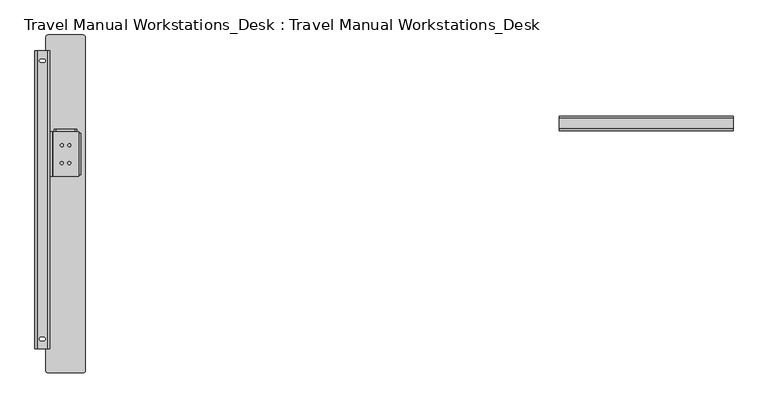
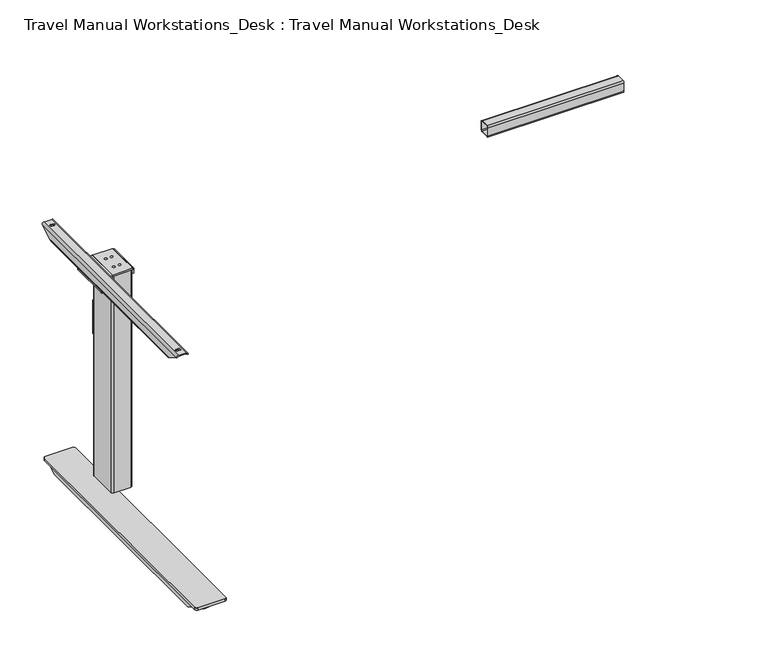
"""IFC4 building model written with IfcOpenShell, lengths in millimetres: furniture geometry, Travel Manual Workstations_Desk : Travel Manual Workstations_Desk."""

from ifc_helpers import new_model, si_unit, point, frame, frame_2d, origin, place, context, project, spatial, polyline, circle_curve, ellipse_curve, trimmed, segment, composite_curve, outline, extrude, source, transform, mapped, element, save
from ifc_brep_helpers import plane_surface, cylinder_surface, revolved_surface, advanced_brep


def travel_manual_workstations_desk_travel_manual_workstations_938992ed(model_context):
    return source(origin(), model_context, "Body", "SolidModel", [
        advanced_brep(
        [(330.0000208, 186.7499019, 681.0036533), (330.0000208, 186.7499019, 659.0036676), (330.0000208, 182.7499019, 655.0036676), (330.0000208, 160.7499162, 655.0036676), (330.0000208, 156.7499162, 659.0036676), (330.0000208, 156.7499162, 681.0036533), (330.0000208, 160.7499162, 685.0036533), (330.0000208, 182.7499019, 685.0036533), (330.0000208, 184.7498786, 659.0036182), (330.0000208, 184.7498786, 681.00363), (330.0000208, 182.7498786, 683.00363), (330.0000208, 160.7570757, 683.00363), (330.0000208, 158.7498668, 680.9964211), (330.0000208, 158.7498668, 659.0036182), (330.0000208, 160.7498668, 657.0036182), (330.0000208, 182.7498786, 657.0036182), (680.0000208, 186.7499019, 659.0036676), (680.0000208, 186.7499019, 681.0036533), (680.0000208, 182.7499019, 685.0036533), (680.0000208, 160.7499162, 685.0036533), (680.0000208, 156.7499162, 681.0036533), (680.0000208, 156.7499162, 659.0036676), (680.0000208, 160.7499162, 655.0036676), (680.0000208, 182.7499019, 655.0036676), (680.0000208, 184.7498786, 681.00363), (680.0000208, 184.7498786, 659.0036182), (680.0000208, 182.7498786, 657.0036182), (680.0000208, 160.7498668, 657.0036182), (680.0000208, 158.7498668, 659.0036182), (680.0000208, 158.7498668, 680.9964211), (680.0000208, 160.7570757, 683.00363), (680.0000208, 182.7498786, 683.00363), (654.9832261, 186.7499019, 669.9805584), (664.9832261, 186.7499019, 669.9805584), (604.9832261, 186.7499019, 669.9805584), (614.9832261, 186.7499019, 669.9805584), (554.9832261, 186.7499019, 669.9805584), (564.9832261, 186.7499019, 669.9805584), (416.3887709, 168.249909, 655.0036676), (416.3887709, 175.249909, 655.0036676), (387.5925208, 168.249909, 655.0036676), (387.5925208, 175.249909, 655.0036676), (358.7962708, 168.249909, 655.0036676), (358.7962708, 175.249909, 655.0036676), (664.9832261, 184.7498786, 669.9805584), (654.9832261, 184.7498786, 669.9805584), (614.9832261, 184.7498786, 669.9805584), (604.9832261, 184.7498786, 669.9805584), (564.9832261, 184.7498786, 669.9805584), (554.9832261, 184.7498786, 669.9805584), (416.3887709, 175.249909, 657.0036182), (416.3887709, 168.249909, 657.0036182), (387.5925208, 175.249909, 657.0036182), (387.5925208, 168.249909, 657.0036182), (358.7962708, 175.249909, 657.0036182), (358.7962708, 168.249909, 657.0036182)],
        [
            (0, 1),
            (1, 2, circle_curve(frame((330.0000208, 182.7499019, 659.0036676), z_axis=(-1.0, 0.0, 0.0), x_axis=(0.0, -1.0, 0.0)), 4.0)),
            (2, 3),
            (3, 4, circle_curve(frame((330.0000208, 160.7499162, 659.0036676), z_axis=(-1.0, 0.0, 0.0), x_axis=(0.0, -1.0, 0.0)), 4.0)),
            (4, 5),
            (5, 6, circle_curve(frame((330.0000208, 160.7499162, 681.0036533), z_axis=(-1.0, 0.0, 0.0), x_axis=(0.0, -1.0, 0.0)), 4.0)),
            (6, 7),
            (7, 0, circle_curve(frame((330.0000208, 182.7499019, 681.0036533), z_axis=(-1.0, 0.0, 0.0), x_axis=(0.0, -1.0, 0.0)), 4.0)),
            (8, 9),
            (9, 10, circle_curve(frame((330.0000208, 182.7498786, 681.00363), z_axis=(1.0, 0.0, 0.0), x_axis=(0.0, -1.0, 0.0)), 2.0)),
            (10, 11),
            (11, 12, circle_curve(frame((330.0000208, 160.7570757, 680.9964211), z_axis=(1.0, 0.0, 0.0), x_axis=(0.0, -1.0, 0.0)), 2.0072089)),
            (12, 13),
            (13, 14, circle_curve(frame((330.0000208, 160.7498668, 659.0036182), z_axis=(1.0, 0.0, 0.0), x_axis=(0.0, -1.0, 0.0)), 2.0)),
            (14, 15),
            (15, 8, circle_curve(frame((330.0000208, 182.7498786, 659.0036182), z_axis=(1.0, 0.0, 0.0), x_axis=(0.0, -1.0, 0.0)), 2.0)),
            (16, 17),
            (17, 18, circle_curve(frame((680.0000208, 182.7499019, 681.0036533), z_axis=(1.0, 0.0, 0.0), x_axis=(0.0, -1.0, 0.0)), 4.0)),
            (18, 19),
            (19, 20, circle_curve(frame((680.0000208, 160.7499162, 681.0036533), z_axis=(1.0, 0.0, 0.0), x_axis=(0.0, -1.0, 0.0)), 4.0)),
            (20, 21),
            (21, 22, circle_curve(frame((680.0000208, 160.7499162, 659.0036676), z_axis=(1.0, 0.0, 0.0), x_axis=(0.0, -1.0, 0.0)), 4.0)),
            (22, 23),
            (23, 16, circle_curve(frame((680.0000208, 182.7499019, 659.0036676), z_axis=(1.0, 0.0, 0.0), x_axis=(0.0, -1.0, 0.0)), 4.0)),
            (24, 25),
            (25, 26, circle_curve(frame((680.0000208, 182.7498786, 659.0036182), z_axis=(-1.0, 0.0, 0.0), x_axis=(0.0, -1.0, 0.0)), 2.0)),
            (26, 27),
            (27, 28, circle_curve(frame((680.0000208, 160.7498668, 659.0036182), z_axis=(-1.0, 0.0, 0.0), x_axis=(0.0, -1.0, 0.0)), 2.0)),
            (28, 29),
            (29, 30, circle_curve(frame((680.0000208, 160.7570757, 680.9964211), z_axis=(-1.0, 0.0, 0.0), x_axis=(0.0, -1.0, 0.0)), 2.0072089)),
            (30, 31),
            (31, 24, circle_curve(frame((680.0000208, 182.7498786, 681.00363), z_axis=(-1.0, 0.0, 0.0), x_axis=(0.0, -1.0, 0.0)), 2.0)),
            (0, 17),
            (16, 1),
            (32, 33, circle_curve(frame((659.9832261, 186.7499019, 669.9805584), z_axis=(0.0, -1.0, 0.0), x_axis=(1.0, 0.0, 0.0)), 5.0)),
            (33, 32, circle_curve(frame((659.9832261, 186.7499019, 669.9805584), z_axis=(0.0, -1.0, 0.0), x_axis=(1.0, 0.0, 0.0)), 5.0)),
            (34, 35, circle_curve(frame((609.9832261, 186.7499019, 669.9805584), z_axis=(0.0, -1.0, 0.0), x_axis=(1.0, 0.0, 0.0)), 5.0)),
            (35, 34, circle_curve(frame((609.9832261, 186.7499019, 669.9805584), z_axis=(0.0, -1.0, 0.0), x_axis=(1.0, 0.0, 0.0)), 5.0)),
            (36, 37, circle_curve(frame((559.9832261, 186.7499019, 669.9805584), z_axis=(0.0, -1.0, 0.0), x_axis=(1.0, 0.0, 0.0)), 5.0)),
            (37, 36, circle_curve(frame((559.9832261, 186.7499019, 669.9805584), z_axis=(0.0, -1.0, 0.0), x_axis=(1.0, 0.0, 0.0)), 5.0)),
            (23, 2),
            (22, 3),
            (38, 39, circle_curve(frame((416.3887709, 171.749909, 655.0036676), z_axis=(0.0, 0.0, 1.0), x_axis=(0.0, -1.0, 0.0)), 3.5)),
            (39, 38, circle_curve(frame((416.3887709, 171.749909, 655.0036676), z_axis=(0.0, 0.0, 1.0), x_axis=(0.0, -1.0, 0.0)), 3.5)),
            (40, 41, circle_curve(frame((387.5925208, 171.749909, 655.0036676), z_axis=(0.0, 0.0, 1.0), x_axis=(0.0, -1.0, 0.0)), 3.5)),
            (41, 40, circle_curve(frame((387.5925208, 171.749909, 655.0036676), z_axis=(0.0, 0.0, 1.0), x_axis=(0.0, -1.0, 0.0)), 3.5)),
            (42, 43, circle_curve(frame((358.7962708, 171.749909, 655.0036676), z_axis=(0.0, 0.0, 1.0), x_axis=(0.0, -1.0, 0.0)), 3.5)),
            (43, 42, circle_curve(frame((358.7962708, 171.749909, 655.0036676), z_axis=(0.0, 0.0, 1.0), x_axis=(0.0, -1.0, 0.0)), 3.5)),
            (21, 4),
            (20, 5),
            (19, 6),
            (18, 7),
            (8, 25),
            (24, 9),
            (44, 45, circle_curve(frame((659.9832261, 184.7498786, 669.9805584), z_axis=(0.0, 1.0, 0.0), x_axis=(1.0, 0.0, 0.0)), 5.0)),
            (45, 44, circle_curve(frame((659.9832261, 184.7498786, 669.9805584), z_axis=(0.0, 1.0, 0.0), x_axis=(1.0, 0.0, 0.0)), 5.0)),
            (46, 47, circle_curve(frame((609.9832261, 184.7498786, 669.9805584), z_axis=(0.0, 1.0, 0.0), x_axis=(1.0, 0.0, 0.0)), 5.0)),
            (47, 46, circle_curve(frame((609.9832261, 184.7498786, 669.9805584), z_axis=(0.0, 1.0, 0.0), x_axis=(1.0, 0.0, 0.0)), 5.0)),
            (48, 49, circle_curve(frame((559.9832261, 184.7498786, 669.9805584), z_axis=(0.0, 1.0, 0.0), x_axis=(1.0, 0.0, 0.0)), 5.0)),
            (49, 48, circle_curve(frame((559.9832261, 184.7498786, 669.9805584), z_axis=(0.0, 1.0, 0.0), x_axis=(1.0, 0.0, 0.0)), 5.0)),
            (31, 10),
            (30, 11),
            (29, 12),
            (28, 13),
            (27, 14),
            (26, 15),
            (50, 51, circle_curve(frame((416.3887709, 171.749909, 657.0036182), z_axis=(0.0, 0.0, -1.0), x_axis=(0.0, -1.0, 0.0)), 3.5)),
            (51, 50, circle_curve(frame((416.3887709, 171.749909, 657.0036182), z_axis=(0.0, 0.0, -1.0), x_axis=(0.0, -1.0, 0.0)), 3.5)),
            (52, 53, circle_curve(frame((387.5925208, 171.749909, 657.0036182), z_axis=(0.0, 0.0, -1.0), x_axis=(0.0, -1.0, 0.0)), 3.5)),
            (53, 52, circle_curve(frame((387.5925208, 171.749909, 657.0036182), z_axis=(0.0, 0.0, -1.0), x_axis=(0.0, -1.0, 0.0)), 3.5)),
            (54, 55, circle_curve(frame((358.7962708, 171.749909, 657.0036182), z_axis=(0.0, 0.0, -1.0), x_axis=(0.0, -1.0, 0.0)), 3.5)),
            (55, 54, circle_curve(frame((358.7962708, 171.749909, 657.0036182), z_axis=(0.0, 0.0, -1.0), x_axis=(0.0, -1.0, 0.0)), 3.5)),
            (50, 39),
            (38, 51),
            (52, 41),
            (40, 53),
            (54, 43),
            (42, 55),
            (32, 45),
            (44, 33),
            (34, 47),
            (46, 35),
            (36, 49),
            (48, 37),
        ],
        [
            plane_surface(frame((330.0000208, 186.7499019, 659.0036414), z_axis=(-1.0, 0.0, 0.0), x_axis=(0.0, 0.0, -1.0))),
            plane_surface(frame((680.0000208, 186.7499019, 659.0036414), z_axis=(1.0, 0.0, 0.0), x_axis=(0.0, 0.0, 1.0))),
            plane_surface(frame((330.0000208, 186.7499019, 681.0036533), z_axis=(0.0, 1.0, 0.0), x_axis=(1.0, 0.0, 0.0))),
            cylinder_surface(frame((680.0000208, 182.7499019, 659.0036676), z_axis=(-1.0, 0.0, 0.0), x_axis=(0.0, -1.0, 0.0)), 4.0),
            plane_surface(frame((330.0000208, 182.7499019, 655.0036676), z_axis=(0.0, 0.0, -1.0), x_axis=(1.0, 0.0, 0.0))),
            cylinder_surface(frame((680.0000208, 160.7499162, 659.0036676), z_axis=(-1.0, 0.0, 0.0), x_axis=(0.0, -1.0, 0.0)), 4.0),
            plane_surface(frame((330.0000208, 156.7499162, 659.0036676), z_axis=(0.0, -1.0, 0.0), x_axis=(1.0, 0.0, 0.0))),
            cylinder_surface(frame((680.0000208, 160.7499162, 681.0036533), z_axis=(-1.0, 0.0, 0.0), x_axis=(0.0, -1.0, 0.0)), 4.0),
            plane_surface(frame((330.0000208, 160.7499162, 685.0036533), z_axis=(0.0, 0.0, 1.0), x_axis=(1.0, 0.0, 0.0))),
            cylinder_surface(frame((680.0000208, 182.7499019, 681.0036533), z_axis=(-1.0, 0.0, 0.0), x_axis=(0.0, -1.0, 0.0)), 4.0),
            plane_surface(frame((330.0000208, 184.7498786, 659.0036182), z_axis=(0.0, -1.0, 0.0), x_axis=(1.0, 0.0, 0.0))),
            revolved_surface(polyline([(680.0000208, 180.7498786, 681.00363), (330.0000208, 180.7498786, 681.00363)]), (-0.0001257, 182.7498786, 681.00363), (1.0, 0.0, 0.0)),
            plane_surface(frame((330.0000208, 182.7498786, 683.00363), z_axis=(0.0, 0.0, -1.0), x_axis=(1.0, 0.0, 0.0))),
            revolved_surface(polyline([(680.0000208, 158.7498668, 680.9964211), (330.0000208, 158.7498668, 680.9964211)]), (-0.0001257, 160.7570757, 680.9964211), (1.0, 0.0, 0.0)),
            plane_surface(frame((330.0000208, 158.7498668, 680.9964211), z_axis=(0.0, 1.0, 0.0), x_axis=(1.0, 0.0, 0.0))),
            revolved_surface(polyline([(680.0000208, 158.7498668, 659.0036182), (330.0000208, 158.7498668, 659.0036182)]), (-0.0001257, 160.7498668, 659.0036182), (1.0, 0.0, 0.0)),
            plane_surface(frame((330.0000208, 160.7498668, 657.0036182), z_axis=(0.0, 0.0, 1.0), x_axis=(1.0, 0.0, 0.0))),
            revolved_surface(polyline([(680.0000208, 180.7498786, 659.0036182), (330.0000208, 180.7498786, 659.0036182)]), (-0.0001257, 182.7498786, 659.0036182), (1.0, 0.0, 0.0)),
            revolved_surface(polyline([(416.3887709, 168.249909, 655.0036676), (416.3887709, 168.249909, 657.0036182)]), (416.3887709, 171.749909, 680.0036676), (0.0, 0.0, -1.0)),
            revolved_surface(polyline([(387.5925208, 168.249909, 655.0036676), (387.5925208, 168.249909, 657.0036182)]), (387.5925208, 171.749909, 680.0036676), (0.0, 0.0, -1.0)),
            revolved_surface(polyline([(358.7962708, 168.249909, 655.0036676), (358.7962708, 168.249909, 657.0036182)]), (358.7962708, 171.749909, 680.0036676), (0.0, 0.0, -1.0)),
            revolved_surface(polyline([(664.9832261, 186.7499019, 669.9805584), (664.9832261, 184.7498786, 669.9805584)]), (659.9832261, 161.7499019, 669.9805584), (0.0, 1.0, 0.0)),
            revolved_surface(polyline([(614.9832261, 186.7499019, 669.9805584), (614.9832261, 184.7498786, 669.9805584)]), (609.9832261, 161.7499019, 669.9805584), (0.0, 1.0, 0.0)),
            revolved_surface(polyline([(564.9832261, 186.7499019, 669.9805584), (564.9832261, 184.7498786, 669.9805584)]), (559.9832261, 161.7499019, 669.9805584), (0.0, 1.0, 0.0)),
        ],
        [
            (0, [[1, 2, 3, 4, 5, 6, 7, 8], [9, 10, 11, 12, 13, 14, 15, 16]]),
            (1, [[17, 18, 19, 20, 21, 22, 23, 24], [25, 26, 27, 28, 29, 30, 31, 32]]),
            (2, [[-1, 33, -17, 34], [35, 36], [37, 38], [39, 40]]),
            (3, [[-2, -34, -24, 41]]),
            (4, [[-3, -41, -23, 42], [43, 44], [45, 46], [47, 48]]),
            (5, [[-4, -42, -22, 49]]),
            (6, [[-5, -49, -21, 50]]),
            (7, [[-6, -50, -20, 51]]),
            (8, [[-7, -51, -19, 52]]),
            (9, [[-8, -52, -18, -33]]),
            (10, [[-9, 53, -25, 54], [55, 56], [57, 58], [59, 60]]),
            (11, [[-10, -54, -32, 61]]),
            (12, [[-11, -61, -31, 62]]),
            (13, [[-12, -62, -30, 63]]),
            (14, [[-13, -63, -29, 64]]),
            (15, [[-14, -64, -28, 65]]),
            (16, [[-15, -65, -27, 66], [67, 68], [69, 70], [71, 72]]),
            (17, [[-16, -66, -26, -53]]),
            (18, [[73, -43, 74, -67]]),
            (18, [[-73, -68, -74, -44]]),
            (19, [[75, -45, 76, -69]]),
            (19, [[-75, -70, -76, -46]]),
            (20, [[77, -47, 78, -71]]),
            (20, [[-77, -72, -78, -48]]),
            (21, [[79, -55, 80, -35]]),
            (21, [[-79, -36, -80, -56]]),
            (22, [[81, -57, 82, -37]]),
            (22, [[-81, -38, -82, -58]]),
            (23, [[83, -59, 84, -39]]),
            (23, [[-83, -40, -84, -60]]),
        ],
    ),
        extrude(outline(polyline([(-637.0001081, 65.2500452), (-688.5001012, 65.2500452), (-688.5001012, 154.7501055), (-637.0001081, 154.7501055), (-637.0001081, 65.2500452)]), holes=[composite_curve([segment(trimmed(circle_curve(frame_2d((-670.7999603, 127.9408107)), 3.0), [point((-673.7999603, 127.9408107))], [point((-667.7999603, 127.9408107))], True, "CARTESIAN"), True, "CONTINUOUS"), segment(trimmed(circle_curve(frame_2d((-670.7999603, 127.9408107)), 3.0), [point((-667.7999603, 127.9408107))], [point((-673.7999603, 127.9408107))], True, "CARTESIAN"), True, "CONTINUOUS")], self_intersect=False), composite_curve([segment(trimmed(circle_curve(frame_2d((-655.7999603, 127.9408107)), 3.0), [point((-658.7999603, 127.9408107))], [point((-652.7999603, 127.9408107))], True, "CARTESIAN"), True, "CONTINUOUS"), segment(trimmed(circle_curve(frame_2d((-655.7999603, 127.9408107)), 3.0), [point((-652.7999603, 127.9408107))], [point((-658.7999603, 127.9408107))], True, "CARTESIAN"), True, "CONTINUOUS")], self_intersect=False), composite_curve([segment(trimmed(circle_curve(frame_2d((-670.7999603, 92.05934)), 3.0), [point((-673.7999603, 92.05934))], [point((-667.7999603, 92.05934))], True, "CARTESIAN"), True, "CONTINUOUS"), segment(trimmed(circle_curve(frame_2d((-670.7999603, 92.05934)), 3.0), [point((-667.7999603, 92.05934))], [point((-673.7999603, 92.05934))], True, "CARTESIAN"), True, "CONTINUOUS")], self_intersect=False), composite_curve([segment(trimmed(circle_curve(frame_2d((-655.7999603, 92.05934)), 3.0), [point((-658.7999603, 92.05934))], [point((-652.7999603, 92.05934))], True, "CARTESIAN"), True, "CONTINUOUS"), segment(trimmed(circle_curve(frame_2d((-655.7999603, 92.05934)), 3.0), [point((-652.7999603, 92.05934))], [point((-658.7999603, 92.05934))], True, "CARTESIAN"), True, "CONTINUOUS")], self_intersect=False)]), frame((0.0, 0.0, 688.9999966), z_axis=(0.0, 0.0, 1.0), x_axis=(1.0, 0.0, 0.0)), (0.0, 0.0, 1.0), 3.9999739),
        extrude(outline(composite_curve([segment(trimmed(circle_curve(frame_2d((-702.5000853, 161.7500998)), 5.0), [point((-702.5000853, 166.7500998))], [point((-697.5000853, 161.7500998))], False, "CARTESIAN"), True, "CONTINUOUS"), segment(polyline([(-697.5000853, 161.7500998), (-697.5000853, 58.2500509)]), True, "CONTINUOUS"), segment(trimmed(circle_curve(frame_2d((-702.5000853, 58.2500509)), 5.0), [point((-697.5000853, 58.2500509))], [point((-702.5000853, 53.2500509))], False, "CARTESIAN"), True, "CONTINUOUS"), segment(polyline([(-702.5000853, 53.2500509), (-718.0000913, 53.2500509)]), True, "CONTINUOUS"), segment(trimmed(circle_curve(frame_2d((-718.0000913, 58.2500509)), 5.0), [point((-718.0000913, 53.2500509))], [point((-723.0000913, 58.2500509))], False, "CARTESIAN"), True, "CONTINUOUS"), segment(polyline([(-723.0000913, 58.2500509), (-723.0000913, 161.7500998)]), True, "CONTINUOUS"), segment(trimmed(circle_curve(frame_2d((-718.0000913, 161.7500998)), 5.0), [point((-723.0000913, 161.7500998))], [point((-718.0000913, 166.7500998))], False, "CARTESIAN"), True, "CONTINUOUS"), segment(polyline([(-718.0000913, 166.7500998), (-702.5000853, 166.7500998)]), True, "CONTINUOUS")], self_intersect=False), holes=[composite_curve([segment(polyline([(-714.5001014, 158.5000219), (-714.5001014, 153.5000364)]), True, "CONTINUOUS"), segment(trimmed(circle_curve(frame_2d((-710.0001035, 153.5000364)), 4.4999979), [point((-714.5001014, 153.5000364))], [point((-705.5001057, 153.5000364))], True, "CARTESIAN"), True, "CONTINUOUS"), segment(polyline([(-705.5001057, 153.5000364), (-705.5001057, 158.5000219)]), True, "CONTINUOUS"), segment(trimmed(circle_curve(frame_2d((-710.0001035, 158.5000219)), 4.4999979), [point((-705.5001057, 158.5000219))], [point((-714.5001014, 158.5000219))], True, "CARTESIAN"), True, "CONTINUOUS")], self_intersect=False), composite_curve([segment(trimmed(circle_curve(frame_2d((-710.0001035, 61.5001287)), 4.4999979), [point((-714.5001014, 61.5001287))], [point((-705.5001057, 61.5001287))], True, "CARTESIAN"), True, "CONTINUOUS"), segment(polyline([(-705.5001057, 61.5001287), (-705.5001057, 66.5001143)]), True, "CONTINUOUS"), segment(trimmed(circle_curve(frame_2d((-710.0001035, 66.5001143)), 4.4999979), [point((-705.5001057, 66.5001143))], [point((-714.5001014, 66.5001143))], True, "CARTESIAN"), True, "CONTINUOUS"), segment(polyline([(-714.5001014, 66.5001143), (-714.5001014, 61.5001287)]), True, "CONTINUOUS")], self_intersect=False)]), frame((0.0, 0.0, 660.9999615), z_axis=(0.0, 0.0, 1.0), x_axis=(1.0, 0.0, 0.0)), (0.0, 0.0, 1.0), 4.0000465),
        extrude(outline(composite_curve([segment(polyline([(677.0000023, -632.500092), (688.4999544, -632.500092)]), True, "CONTINUOUS"), segment(trimmed(circle_curve(frame_2d((688.4999544, -637.0001081)), 4.500016), [point((688.4999544, -632.500092))], [point((692.9999704, -637.0001081))], False, "CARTESIAN"), True, "CONTINUOUS"), segment(polyline([(692.9999704, -637.0001081), (692.9999704, -638.0001081), (688.9999704, -638.0001081), (688.9999704, -636.5143651), (677.0000023, -636.5001022), (677.0000023, -632.500092)]), True, "CONTINUOUS")], self_intersect=False)), frame((0.0, 68.2500074, 0.0), z_axis=(0.0, 1.0, 0.0), x_axis=(0.0, 0.0, 1.0)), (0.0, 0.0, 1.0), 83.4999905),
        advanced_brep(
        [(-694.0001172, 65.2500452, 665.000008), (-697.5000853, 65.2500452, 665.000008), (-697.5000853, 65.2500452, 660.9999615), (-694.5000867, 65.2500452, 660.9999615), (-690.000107, 65.2500452, 665.4999775), (-690.000107, 65.2500452, 688.9999966), (-688.5001012, 65.2500452, 688.9999966), (-688.5001012, 65.2500452, 692.9999704), (-689.5001012, 65.2500452, 692.9999704), (-694.0001172, 65.2500452, 688.4999544), (-694.0001172, 154.7501055, 665.000008), (-694.0001172, 154.7501055, 688.4999544), (-689.5001012, 154.7501055, 692.9999704), (-688.5001012, 154.7501055, 692.9999704), (-688.5001012, 154.7501055, 688.9999966), (-690.000107, 154.7501055, 688.9999966), (-690.000107, 154.7501055, 665.4999775), (-694.5000867, 154.7501055, 660.9999978), (-697.5000853, 154.7501055, 660.9999615), (-697.5000853, 154.7501055, 665.000008)],
        [
            (0, 1),
            (1, 2),
            (2, 3),
            (3, 4, circle_curve(frame((-694.5000867, 65.2500452, 665.4999775), z_axis=(0.0, -1.0, 0.0), x_axis=(1.0, 0.0, 0.0)), 4.4999797)),
            (4, 5),
            (5, 6),
            (6, 7),
            (7, 8),
            (8, 9, circle_curve(frame((-689.5001012, 65.2500452, 688.4999544), z_axis=(0.0, -1.0, 0.0), x_axis=(1.0, 0.0, 0.0)), 4.500016)),
            (9, 0),
            (10, 11),
            (11, 12, circle_curve(frame((-689.5001012, 154.7501055, 688.4999544), z_axis=(0.0, 1.0, 0.0), x_axis=(1.0, 0.0, 0.0)), 4.500016)),
            (12, 13),
            (13, 14),
            (14, 15),
            (15, 16),
            (16, 17, circle_curve(frame((-694.5000867, 154.7501055, 665.4999775), z_axis=(0.0, 1.0, 0.0), x_axis=(1.0, 0.0, 0.0)), 4.4999797)),
            (17, 18),
            (18, 19),
            (19, 10),
            (3, 17),
            (16, 4),
            (15, 5),
            (14, 6),
            (7, 13),
            (12, 8),
            (11, 9),
            (10, 0),
            (19, 1),
            (18, 2),
        ],
        [
            plane_surface(frame((-697.5000853, 65.2500452, 665.000008), z_axis=(0.0, -1.0, 0.0), x_axis=(-1.0, 0.0, 0.0))),
            plane_surface(frame((-697.5000853, 154.7501055, 665.000008), z_axis=(0.0, 1.0, 0.0), x_axis=(1.0, 0.0, 0.0))),
            cylinder_surface(frame((-694.5000867, 154.7501055, 665.4999775), z_axis=(0.0, -1.0, 0.0), x_axis=(1.0, 0.0, 0.0)), 4.4999797),
            plane_surface(frame((-690.000107, 65.2500452, 665.4999775), z_axis=(1.0, 0.0, 0.0), x_axis=(0.0, 1.0, 0.0))),
            plane_surface(frame((-690.000107, 65.2500452, 688.9999966), z_axis=(0.0, 0.0, -1.0), x_axis=(0.0, 1.0, 0.0))),
            plane_surface(frame((-688.5001012, 65.2500452, 692.9999704), z_axis=(0.0, 0.0, 1.0), x_axis=(0.0, 1.0, 0.0))),
            cylinder_surface(frame((-689.5001012, 154.7501055, 688.4999544), z_axis=(0.0, -1.0, 0.0), x_axis=(1.0, 0.0, 0.0)), 4.500016),
            plane_surface(frame((-694.0001172, 65.2500452, 688.4999544), z_axis=(-1.0, 0.0, 0.0), x_axis=(0.0, 1.0, 0.0))),
            plane_surface(frame((-688.5001012, 65.2500452, 688.9999966), z_axis=(1.0, 0.0, 0.0), x_axis=(0.0, 1.0, 0.0))),
            plane_surface(frame((-694.0001172, 65.2500452, 665.000008), z_axis=(0.0, 0.0, 1.0), x_axis=(0.0, 1.0, 0.0))),
            plane_surface(frame((-697.5000853, 65.2500452, 665.000008), z_axis=(-1.0, 0.0, 0.0), x_axis=(0.0, 1.0, 0.0))),
            plane_surface(frame((-697.5000853, 65.2500452, 660.9999615), z_axis=(0.0, 0.0, -1.0), x_axis=(0.0, 1.0, 0.0))),
        ],
        [
            (0, [[1, 2, 3, 4, 5, 6, 7, 8, 9, 10]]),
            (1, [[11, 12, 13, 14, 15, 16, 17, 18, 19, 20]]),
            (2, [[-4, 21, -17, 22]]),
            (3, [[-5, -22, -16, 23]]),
            (4, [[-6, -23, -15, 24]]),
            (5, [[-8, 25, -13, 26]]),
            (6, [[-9, -26, -12, 27]]),
            (7, [[-10, -27, -11, 28]]),
            (8, [[-7, -24, -14, -25]]),
            (9, [[-1, -28, -20, 29]]),
            (10, [[-2, -29, -19, 30]]),
            (11, [[-3, -30, -18, -21]]),
        ],
    ),
        advanced_brep(
        [(-724.9499613, 318.0000027, 690.0000198), (-719.9499613, 318.0000027, 695.0000198), (-699.9500483, 318.0000027, 695.0000198), (-694.9500483, 318.0000027, 690.0000198), (-696.9500483, 318.0000027, 690.0000343), (-699.9500483, 318.0000027, 693.0000198), (-719.9499613, 318.0000027, 693.0000198), (-722.9499613, 318.0000027, 690.0000198), (-694.9500483, -282.0000027, 690.0000198), (-699.9500483, -282.0000027, 695.0000198), (-719.9499613, -282.0000027, 695.0000198), (-724.9499613, -282.0000027, 690.0000198), (-722.9499613, -282.0000027, 690.0000343), (-719.9499613, -282.0000027, 693.0000198), (-699.9500483, -282.0000027, 693.0000198), (-696.9500483, -282.0000027, 690.0000198), (-707.4500765, -265.4982881, 695.0000198), (-712.4477363, -265.5000642, 695.0000198), (-712.4489801, -258.5000563, 695.0000198), (-707.4513201, -258.5000563, 695.0000198), (-712.4489801, 294.4999836, 695.0000198), (-712.4477363, 301.4999915, 695.0000198), (-707.4500765, 301.4982154, 695.0000198), (-707.4513201, 294.4999836, 695.0000198), (-694.9500483, -247.3589736, 670.0000341), (-694.9500483, 283.3589736, 670.0000341), (-699.9500483, -238.6987164, 665.0000341), (-699.9500483, 274.6987164, 665.0000341), (-719.9499613, -238.6987164, 665.0000341), (-719.9499613, 274.6987164, 665.0000341), (-724.9499613, -247.3589736, 670.0000341), (-724.9499613, 283.3589736, 670.0000341), (-722.9499613, -247.3589736, 670.0000341), (-722.9499613, 283.3589736, 670.0000341), (-719.9499613, -242.1628193, 667.0000341), (-719.9499613, 278.1628193, 667.0000341), (-699.9500483, -242.1628193, 667.0000341), (-699.9500483, 278.1628193, 667.0000341), (-696.9500483, -247.3589736, 670.0000341), (-696.9500483, 283.3589736, 670.0000341), (-712.4477363, -265.5000642, 693.0000198), (-707.4500765, -265.4982881, 693.0000198), (-707.4513201, -258.5000563, 693.0000198), (-712.4489801, -258.5000563, 693.0000198), (-712.4477363, 301.4999915, 693.0000198), (-712.4489801, 294.4999836, 693.0000198), (-707.4513201, 294.4999836, 693.0000198), (-707.4500765, 301.4982154, 693.0000198)],
        [
            (0, 1, circle_curve(frame((-719.9499613, 318.0000027, 690.0000198), z_axis=(0.0, 1.0, 0.0), x_axis=(0.0, 0.0, -1.0)), 5.0)),
            (1, 2),
            (2, 3, circle_curve(frame((-699.9500483, 318.0000027, 690.0000198), z_axis=(0.0, 1.0, 0.0), x_axis=(0.0, 0.0, -1.0)), 5.0)),
            (3, 4),
            (4, 5, circle_curve(frame((-699.9500483, 318.0000027, 690.0000198), z_axis=(0.0, -1.0, 0.0), x_axis=(0.0, 0.0, -1.0)), 3.0)),
            (5, 6),
            (6, 7, circle_curve(frame((-719.9499613, 318.0000027, 690.0000198), z_axis=(0.0, -1.0, 0.0), x_axis=(0.0, 0.0, -1.0)), 3.0)),
            (7, 0),
            (8, 9, circle_curve(frame((-699.9500483, -282.0000027, 690.0000198), z_axis=(0.0, -1.0, 0.0), x_axis=(0.0, 0.0, -1.0)), 5.0)),
            (9, 10),
            (10, 11, circle_curve(frame((-719.9499613, -282.0000027, 690.0000198), z_axis=(0.0, -1.0, 0.0), x_axis=(0.0, 0.0, -1.0)), 5.0)),
            (11, 12),
            (12, 13, circle_curve(frame((-719.9499613, -282.0000027, 690.0000198), z_axis=(0.0, 1.0, 0.0), x_axis=(0.0, 0.0, -1.0)), 3.0)),
            (13, 14),
            (14, 15, circle_curve(frame((-699.9500483, -282.0000027, 690.0000198), z_axis=(0.0, 1.0, 0.0), x_axis=(0.0, 0.0, -1.0)), 3.0)),
            (15, 8),
            (0, 11),
            (10, 1),
            (9, 2),
            (16, 17),
            (17, 18, circle_curve(frame((-712.4489801, -262.0000603, 695.0000198), z_axis=(0.0, 0.0, -1.0), x_axis=(1.0, 0.0, 0.0)), 3.5000041)),
            (18, 19),
            (19, 16, circle_curve(frame((-707.4513201, -261.9991723, 695.0000198), z_axis=(0.0, 0.0, -1.0), x_axis=(1.0, 0.0, 0.0)), 3.499116)),
            (20, 21, circle_curve(frame((-712.4489801, 297.9999877, 695.0000198), z_axis=(0.0, 0.0, -1.0), x_axis=(1.0, 0.0, 0.0)), 3.5000041)),
            (21, 22),
            (22, 23, circle_curve(frame((-707.4513201, 297.9990996, 695.0000198), z_axis=(0.0, 0.0, -1.0), x_axis=(1.0, 0.0, 0.0)), 3.499116)),
            (23, 20),
            (8, 3),
            (8, 24),
            (24, 25),
            (25, 3),
            (24, 26, ellipse_curve(frame((-699.9500483, -247.3589736, 670.0000341), z_axis=(0.0, 0.49999986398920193, 0.8660254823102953), x_axis=(0.0, 0.8660254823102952, -0.49999986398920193)), 10.0000027, 5.0)),
            (26, 27),
            (27, 25, ellipse_curve(frame((-699.9500483, 283.3589736, 670.0000341), z_axis=(0.0, -0.4999998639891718, 0.8660254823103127), x_axis=(0.0, 0.8660254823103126, 0.49999986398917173)), 10.0000027, 5.0)),
            (26, 28),
            (28, 29),
            (29, 27),
            (28, 30, ellipse_curve(frame((-719.9499613, -247.3589736, 670.0000341), z_axis=(0.0, 0.49999986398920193, 0.8660254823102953), x_axis=(0.0, 0.8660254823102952, -0.49999986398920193)), 10.0000027, 5.0)),
            (30, 31),
            (31, 29, ellipse_curve(frame((-719.9499613, 283.3589736, 670.0000341), z_axis=(0.0, -0.4999998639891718, 0.8660254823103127), x_axis=(0.0, 0.8660254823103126, 0.49999986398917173)), 10.0000027, 5.0)),
            (0, 31),
            (30, 11),
            (7, 12),
            (12, 32),
            (32, 33),
            (33, 7),
            (32, 34, ellipse_curve(frame((-719.9499613, -247.3589736, 670.0000341), z_axis=(0.0, -0.49999986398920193, -0.8660254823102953), x_axis=(0.0, -0.8660254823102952, 0.49999986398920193)), 6.0000016, 3.0)),
            (34, 35),
            (35, 33, ellipse_curve(frame((-719.9499613, 283.3589736, 670.0000341), z_axis=(0.0, 0.4999998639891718, -0.8660254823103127), x_axis=(0.0, -0.8660254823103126, -0.49999986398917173)), 6.0000016, 3.0)),
            (34, 36),
            (36, 37),
            (37, 35),
            (36, 38, ellipse_curve(frame((-699.9500483, -247.3589736, 670.0000341), z_axis=(0.0, -0.49999986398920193, -0.8660254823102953), x_axis=(0.0, -0.8660254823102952, 0.49999986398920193)), 6.0000016, 3.0)),
            (38, 39),
            (39, 37, ellipse_curve(frame((-699.9500483, 283.3589736, 670.0000341), z_axis=(0.0, 0.4999998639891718, -0.8660254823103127), x_axis=(0.0, -0.8660254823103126, -0.49999986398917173)), 6.0000016, 3.0)),
            (15, 4),
            (4, 39),
            (38, 15),
            (14, 5),
            (13, 6),
            (40, 41),
            (41, 42, circle_curve(frame((-707.4513201, -261.9991723, 693.0000198), z_axis=(0.0, 0.0, 1.0), x_axis=(1.0, 0.0, 0.0)), 3.499116)),
            (42, 43),
            (43, 40, circle_curve(frame((-712.4489801, -262.0000603, 693.0000198), z_axis=(0.0, 0.0, 1.0), x_axis=(1.0, 0.0, 0.0)), 3.5000041)),
            (44, 45, circle_curve(frame((-712.4489801, 297.9999877, 693.0000198), z_axis=(0.0, 0.0, 1.0), x_axis=(1.0, 0.0, 0.0)), 3.5000041)),
            (45, 46),
            (46, 47, circle_curve(frame((-707.4513201, 297.9990996, 693.0000198), z_axis=(0.0, 0.0, 1.0), x_axis=(1.0, 0.0, 0.0)), 3.499116)),
            (47, 44),
            (40, 17),
            (16, 41),
            (19, 42),
            (18, 43),
            (44, 21),
            (20, 45),
            (23, 46),
            (22, 47),
        ],
        [
            plane_surface(frame((-149.9500296, 318.0000027, 695.0000198), z_axis=(0.0, 1.0, 0.0), x_axis=(1.0, 0.0, 0.0))),
            plane_surface(frame((-149.9500296, -282.0000027, 695.0000198), z_axis=(0.0, -1.0, 0.0), x_axis=(1.0, 0.0, 0.0))),
            cylinder_surface(frame((-719.9499613, 318.0000027, 690.0000198), z_axis=(0.0, 1.0, 0.0), x_axis=(0.0, 0.0, -1.0)), 5.0),
            plane_surface(frame((-719.9499613, 318.0000027, 695.0000198), z_axis=(0.0, 0.0, 1.0), x_axis=(0.0, -1.0, 0.0))),
            cylinder_surface(frame((-699.9500483, 318.0000027, 690.0000198), z_axis=(0.0, 1.0, 0.0), x_axis=(0.0, 0.0, -1.0)), 5.0),
            plane_surface(frame((-694.9500483, 318.0000027, 690.0000198), z_axis=(1.0, 0.0, 0.0), x_axis=(0.0, -1.0, 0.0))),
            cylinder_surface(frame((-699.9500483, 318.0000027, 670.0000341), z_axis=(0.0, 1.0, 0.0), x_axis=(0.0, 0.0, -1.0)), 5.0),
            plane_surface(frame((-699.9500483, 318.0000027, 665.0000341), z_axis=(0.0, 0.0, -1.0), x_axis=(0.0, -1.0, 0.0))),
            cylinder_surface(frame((-719.9499613, 318.0000027, 670.0000341), z_axis=(0.0, 1.0, 0.0), x_axis=(0.0, 0.0, -1.0)), 5.0),
            plane_surface(frame((-724.9499613, 318.0000027, 670.0000341), z_axis=(-1.0, 0.0, 0.0), x_axis=(0.0, -1.0, 0.0))),
            plane_surface(frame((-722.9499613, 318.0000027, 690.0000198), z_axis=(1.0, 0.0, 0.0), x_axis=(0.0, -1.0, 0.0))),
            revolved_surface(polyline([(-719.9499613, -252.5551278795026, 667.0000341), (-719.9499613, 288.55512787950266, 667.0000341)]), (-719.9499613, 318.0000027, 670.0000341), (0.0, -1.0, 0.0)),
            plane_surface(frame((-719.9499613, 318.0000027, 667.0000341), z_axis=(0.0, 0.0, 1.0), x_axis=(0.0, -1.0, 0.0))),
            revolved_surface(polyline([(-699.9500483, -252.5551278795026, 667.0000341), (-699.9500483, 288.55512787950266, 667.0000341)]), (-699.9500483, 318.0000027, 670.0000341), (0.0, -1.0, 0.0)),
            plane_surface(frame((-696.9500483, 318.0000027, 670.0000341), z_axis=(-1.0, 0.0, 0.0), x_axis=(0.0, -1.0, 0.0))),
            revolved_surface(polyline([(-699.9500483, -282.0000027, 687.0000198), (-699.9500483, 318.0000027, 687.0000198)]), (-699.9500483, 318.0000027, 690.0000198), (0.0, -1.0, 0.0)),
            plane_surface(frame((-699.9500483, 318.0000027, 693.0000198), z_axis=(0.0, 0.0, -1.0), x_axis=(0.0, -1.0, 0.0))),
            revolved_surface(polyline([(-719.9499613, -282.0000027, 687.0000198), (-719.9499613, 318.0000027, 687.0000198)]), (-719.9499613, 318.0000027, 690.0000198), (0.0, -1.0, 0.0)),
            plane_surface(frame((-712.4477363, -265.5000642, 1295.49236), z_axis=(-0.0003553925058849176, 0.9999999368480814, 0.0), x_axis=(0.0, 0.0, -1.0))),
            revolved_surface(polyline([(-703.9522041, -261.9991723, 695.0000198), (-703.9522041, -261.9991723, 693.0000198)]), (-707.4513201, -261.9991723, 0.0), (0.0, 0.0, 1.0)),
            plane_surface(frame((-707.4513201, -258.5000563, 1295.49236), z_axis=(-5.48458155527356e-12, -1.0, 0.0), x_axis=(0.0, 0.0, -1.0))),
            revolved_surface(polyline([(-708.948976, -262.0000603, 695.0000198), (-708.948976, -262.0000603, 693.0000198)]), (-712.4489801, -262.0000603, 0.0), (0.0, 0.0, 1.0)),
            revolved_surface(polyline([(-708.948976, 297.9999877, 695.0000198), (-708.948976, 297.9999877, 693.0000198)]), (-712.4489801, 297.9999877, 0.0), (0.0, 0.0, 1.0)),
            plane_surface(frame((-712.4489801, 294.4999836, 1295.49236), z_axis=(0.0, 1.0, 0.0), x_axis=(0.0, 0.0, -1.0))),
            revolved_surface(polyline([(-703.9522041, 297.9990996, 695.0000198), (-703.9522041, 297.9990996, 693.0000198)]), (-707.4513201, 297.9990996, 0.0), (0.0, 0.0, 1.0)),
            plane_surface(frame((-707.4500765, 301.4982154, 1295.49236), z_axis=(-0.0003553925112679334, -0.9999999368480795, 0.0), x_axis=(0.0, 0.0, -1.0))),
            plane_surface(frame((-544.6387808, 318.0000027, 690.0000343), z_axis=(0.0, 0.4999998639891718, -0.8660254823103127), x_axis=(-1.0, 0.0, 0.0))),
            plane_surface(frame((-544.6387808, -238.6987164, 665.0000341), z_axis=(0.0, -0.49999986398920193, -0.8660254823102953), x_axis=(-1.0, 0.0, 0.0))),
        ],
        [
            (0, [[1, 2, 3, 4, 5, 6, 7, 8]]),
            (1, [[9, 10, 11, 12, 13, 14, 15, 16]]),
            (2, [[-1, 17, -11, 18]]),
            (3, [[-2, -18, -10, 19], [20, 21, 22, 23], [24, 25, 26, 27]]),
            (4, [[-3, -19, -9, 28]]),
            (5, [[-28, 29, 30, 31]]),
            (6, [[-30, 32, 33, 34]]),
            (7, [[-33, 35, 36, 37]]),
            (8, [[-36, 38, 39, 40]]),
            (9, [[-17, 41, -39, 42]]),
            (10, [[43, 44, 45, 46]]),
            (11, [[-45, 47, 48, 49]]),
            (12, [[-48, 50, 51, 52]]),
            (13, [[-51, 53, 54, 55]]),
            (14, [[56, 57, -54, 58]]),
            (15, [[-5, -56, -15, 59]]),
            (16, [[-6, -59, -14, 60], [61, 62, 63, 64], [65, 66, 67, 68]]),
            (17, [[-7, -60, -13, -43]]),
            (18, [[69, -20, 70, -61]]),
            (19, [[-70, -23, 71, -62]]),
            (20, [[-71, -22, 72, -63]]),
            (21, [[-69, -64, -72, -21]]),
            (22, [[73, -24, 74, -65]]),
            (23, [[-74, -27, 75, -66]]),
            (24, [[-75, -26, 76, -67]]),
            (25, [[-73, -68, -76, -25]]),
            (26, [[-8, -46, -49, -52, -55, -57, -4, -31, -34, -37, -40, -41]]),
            (27, [[-12, -42, -38, -35, -32, -29, -16, -58, -53, -50, -47, -44]]),
        ],
    ),
        extrude(outline(composite_curve([segment(trimmed(circle_curve(frame_2d((564.0000053, -682.7500045)), 2.9999986), [point((567.0000039, -682.7500045))], [point((564.0000053, -685.7500031))], False, "CARTESIAN"), True, "CONTINUOUS"), segment(polyline([(564.0000053, -685.7500031), (477.0000105, -685.7500031)]), True, "CONTINUOUS"), segment(trimmed(circle_curve(frame_2d((477.0000105, -682.7500045)), 2.9999986), [point((477.0000105, -685.7500031))], [point((474.0000119, -682.7500045))], False, "CARTESIAN"), True, "CONTINUOUS"), segment(polyline([(474.0000119, -682.7500045), (474.0000119, -643.7499867)]), True, "CONTINUOUS"), segment(trimmed(circle_curve(frame_2d((477.0000105, -643.7499867)), 2.9999986), [point((474.0000119, -643.7499867))], [point((477.0000105, -640.7499882))], False, "CARTESIAN"), True, "CONTINUOUS"), segment(polyline([(477.0000105, -640.7499882), (564.0000053, -640.7499882)]), True, "CONTINUOUS"), segment(trimmed(circle_curve(frame_2d((564.0000053, -643.7499867)), 2.9999986), [point((564.0000053, -640.7499882))], [point((567.0000039, -643.7499867))], False, "CARTESIAN"), True, "CONTINUOUS"), segment(polyline([(567.0000039, -643.7499867), (567.0000039, -682.7500045)]), True, "CONTINUOUS")], self_intersect=False), holes=[composite_curve([segment(trimmed(circle_curve(frame_2d((493.8501811, -653.7499941)), 2.9999986), [point((493.8501811, -650.7499955))], [point((490.8501825, -653.7499941))], True, "CARTESIAN"), True, "CONTINUOUS"), segment(polyline([(490.8501825, -653.7499941), (490.8501825, -672.7499971)]), True, "CONTINUOUS"), segment(trimmed(circle_curve(frame_2d((493.8501811, -672.7499971)), 2.9999986), [point((490.8501825, -672.7499971))], [point((493.8501811, -675.7499957))], True, "CARTESIAN"), True, "CONTINUOUS"), segment(polyline([(493.8501811, -675.7499957), (547.8501554, -675.7499957)]), True, "CONTINUOUS"), segment(trimmed(circle_curve(frame_2d((547.8501554, -672.7499971)), 2.9999986), [point((547.8501554, -675.7499957))], [point((550.8501539, -672.7499971))], True, "CARTESIAN"), True, "CONTINUOUS"), segment(polyline([(550.8501539, -672.7499971), (550.8501539, -653.7499941)]), True, "CONTINUOUS"), segment(trimmed(circle_curve(frame_2d((547.8501554, -653.7499941)), 2.9999986), [point((550.8501539, -653.7499941))], [point((547.8501554, -650.7499955))], True, "CARTESIAN"), True, "CONTINUOUS"), segment(polyline([(547.8501554, -650.7499955), (493.8501811, -650.7499955)]), True, "CONTINUOUS")], self_intersect=False), composite_curve([segment(trimmed(circle_curve(frame_2d((558.0348091, -663.2795741)), 2.5), [point((558.0348091, -665.7795741))], [point((558.0348091, -660.7795741))], True, "CARTESIAN"), True, "CONTINUOUS"), segment(trimmed(circle_curve(frame_2d((558.0348091, -663.2795741)), 2.5), [point((558.0348091, -660.7795741))], [point((558.0348091, -665.7795741))], True, "CARTESIAN"), True, "CONTINUOUS")], self_intersect=False), composite_curve([segment(trimmed(circle_curve(frame_2d((483.6655273, -663.2795741)), 2.5), [point((483.6655273, -665.7795741))], [point((483.6655273, -660.7795741))], True, "CARTESIAN"), True, "CONTINUOUS"), segment(trimmed(circle_curve(frame_2d((483.6655273, -663.2795741)), 2.5), [point((483.6655273, -660.7795741))], [point((483.6655273, -665.7795741))], True, "CARTESIAN"), True, "CONTINUOUS")], self_intersect=False)]), frame((0.0, 154.9999449, 0.0), z_axis=(0.0, 1.0, 0.0), x_axis=(0.0, 0.0, 1.0)), (0.0, 0.0, 1.0), 4.9999855),
        advanced_brep(
        [(-663.2500319, -309.0016747, 4.0), (-663.2500319, -258.9983315, 4.0), (-663.2500319, -263.9970817, 0.0), (-663.2500319, -304.0029246, 0.0), (-663.2500319, -309.0016747, 6.0), (-663.2500319, -258.9983315, 6.0), (-663.2500319, -291.0062615, 12.5000001), (-663.2500319, -276.9937448, 12.5000001), (-663.2500319, -287.9984509, 12.5000001), (-663.2500319, -280.0015553, 12.5000001), (-663.2500319, -287.9984509, 21.9964673), (-663.2500319, -280.0015553, 21.9964673), (-663.2500319, -284.0000031, 21.9964673), (-663.2500319, -284.0000031, 0.0)],
        [
            (0, 1, circle_curve(frame((-663.2500319, -284.0000031, 4.0), z_axis=(0.0, 0.0, -1.0), x_axis=(0.0, 1.0, 0.0)), 25.0016716)),
            (1, 2),
            (2, 3, circle_curve(frame((-663.2500319, -284.0000031, 0.0), z_axis=(0.0, 0.0, 1.0), x_axis=(0.0, 1.0, 0.0)), 20.0029215)),
            (3, 0),
            (1, 0, circle_curve(frame((-663.2500319, -284.0000031, 4.0), z_axis=(0.0, 0.0, -1.0), x_axis=(0.0, 1.0, 0.0)), 25.0016716)),
            (3, 2, circle_curve(frame((-663.2500319, -284.0000031, 0.0), z_axis=(0.0, 0.0, 1.0), x_axis=(0.0, 1.0, 0.0)), 20.0029215)),
            (4, 5, circle_curve(frame((-663.2500319, -284.0000031, 6.0), z_axis=(0.0, 0.0, -1.0), x_axis=(0.0, 1.0, 0.0)), 25.0016716)),
            (5, 1),
            (0, 4),
            (5, 4, circle_curve(frame((-663.2500319, -284.0000031, 6.0), z_axis=(0.0, 0.0, -1.0), x_axis=(0.0, 1.0, 0.0)), 25.0016716)),
            (6, 7, circle_curve(frame((-663.2500319, -284.0000031, 12.5000001), z_axis=(0.0, 0.0, -1.0), x_axis=(0.0, 1.0, 0.0)), 7.0062584)),
            (7, 5),
            (4, 6),
            (7, 6, circle_curve(frame((-663.2500319, -284.0000031, 12.5000001), z_axis=(0.0, 0.0, -1.0), x_axis=(0.0, 1.0, 0.0)), 7.0062584)),
            (8, 9, circle_curve(frame((-663.2500319, -284.0000031, 12.5000001), z_axis=(0.0, 0.0, -1.0), x_axis=(0.0, 1.0, 0.0)), 3.9984478)),
            (9, 7),
            (6, 8),
            (9, 8, circle_curve(frame((-663.2500319, -284.0000031, 12.5000001), z_axis=(0.0, 0.0, -1.0), x_axis=(0.0, 1.0, 0.0)), 3.9984478)),
            (10, 11, circle_curve(frame((-663.2500319, -284.0000031, 21.9964673), z_axis=(0.0, 0.0, -1.0), x_axis=(0.0, 1.0, 0.0)), 3.9984478)),
            (11, 9),
            (8, 10),
            (11, 10, circle_curve(frame((-663.2500319, -284.0000031, 21.9964673), z_axis=(0.0, 0.0, -1.0), x_axis=(0.0, 1.0, 0.0)), 3.9984478)),
            (12, 11),
            (10, 12),
            (2, 13),
            (13, 3),
        ],
        [
            revolved_surface(polyline([(-663.2500319, -263.9970817, 0.0), (-663.2500319, -258.9983315, 4.0)]), (-663.2500319, -284.0000031, 21.9964673), (0.0, 0.0, 1.0)),
            cylinder_surface(frame((-663.2500319, -284.0000031, 21.9964673), z_axis=(0.0, 0.0, 1.0), x_axis=(0.0, 1.0, 0.0)), 25.0016716),
            revolved_surface(polyline([(-663.2500319, -258.9983315, 6.0), (-663.2500319, -276.9937448, 12.5000001)]), (-663.2500319, -284.0000031, 21.9964673), (0.0, 0.0, 1.0)),
            plane_surface(frame((-663.2500319, -284.0000031, 12.5000001), z_axis=(0.0, 0.0, 1.0), x_axis=(0.0, 1.0, 0.0))),
            cylinder_surface(frame((-663.2500319, -284.0000031, 21.9964673), z_axis=(0.0, 0.0, 1.0), x_axis=(0.0, 1.0, 0.0)), 3.9984478),
            plane_surface(frame((-663.2500319, -284.0000031, 21.9964673), z_axis=(0.0, 0.0, 1.0), x_axis=(0.0, 1.0, 0.0))),
            plane_surface(frame((-663.2500319, -284.0000031, 0.0), z_axis=(0.0, 0.0, -1.0), x_axis=(0.0, 1.0, 0.0))),
        ],
        [
            (0, [[1, 2, 3, 4]]),
            (0, [[5, -4, 6, -2]]),
            (1, [[7, 8, -1, 9]]),
            (1, [[10, -9, -5, -8]]),
            (2, [[11, 12, -7, 13]]),
            (2, [[14, -13, -10, -12]]),
            (3, [[15, 16, -11, 17]]),
            (3, [[18, -17, -14, -16]]),
            (4, [[19, 20, -15, 21]]),
            (4, [[22, -21, -18, -20]]),
            (5, [[23, -19, 24]]),
            (5, [[-24, -22, -23]]),
            (6, [[-3, 25, 26]]),
            (6, [[-6, -26, -25]]),
        ],
    ),
        extrude(outline(polyline([(307.2872028, 6.963252), (-287.2872662, 6.963252), (-315.0001095, 22.9632513), (334.9999008, 22.9632513), (307.2872028, 6.963252)])), frame((-699.2499784, 0.0, 0.0), z_axis=(1.0, 0.0, 0.0), x_axis=(0.0, 1.0, 0.0)), (0.0, 0.0, 1.0), 6.0000335),
        extrude(outline(polyline([(-693.249945, -292.9999989), (-693.249945, -275.0000801), (-633.2500099, -275.0000801), (-633.2500099, -292.9999989), (-693.249945, -292.9999989)])), frame((0.0, 0.0, 10.9632514), z_axis=(0.0, 0.0, 1.0), x_axis=(1.0, 0.0, 0.0)), (0.0, 0.0, 1.0), 12.0),
        extrude(outline(polyline([(-693.249945, 295.0000168), (-693.249945, 312.9999355), (-633.2500099, 312.9999355), (-633.2500099, 295.0000168), (-693.249945, 295.0000168)])), frame((0.0, 0.0, 10.9632514), z_axis=(0.0, 0.0, 1.0), x_axis=(1.0, 0.0, 0.0)), (0.0, 0.0, 1.0), 12.0),
        extrude(outline(polyline([(307.2872028, 6.963252), (-287.2872662, 6.963252), (-315.0001095, 22.9632513), (334.9999008, 22.9632513), (307.2872028, 6.963252)])), frame((-633.2500099, 0.0, 0.0), z_axis=(1.0, 0.0, 0.0), x_axis=(0.0, 1.0, 0.0)), (0.0, 0.0, 1.0), 6.0000335),
        extrude(outline(composite_curve([segment(polyline([(-703.2499887, -325.0000805), (-703.2499887, 345.0000172)]), True, "CONTINUOUS"), segment(trimmed(circle_curve(frame_2d((-698.2500031, 345.0000172)), 4.9999855), [point((-703.2499887, 345.0000172))], [point((-698.2500031, 350.0000027))], False, "CARTESIAN"), True, "CONTINUOUS"), segment(polyline([(-698.2500031, 350.0000027), (-628.2499881, 350.0000027)]), True, "CONTINUOUS"), segment(trimmed(circle_curve(frame_2d((-628.2499881, 345.0000172)), 4.9999855), [point((-628.2499881, 350.0000027))], [point((-623.2500026, 345.0000172))], False, "CARTESIAN"), True, "CONTINUOUS"), segment(polyline([(-623.2500026, 345.0000172), (-623.2500026, -325.0000805)]), True, "CONTINUOUS"), segment(trimmed(circle_curve(frame_2d((-628.2499881, -325.0000805)), 4.9999855), [point((-623.2500026, -325.0000805))], [point((-628.2499881, -330.000066))], False, "CARTESIAN"), True, "CONTINUOUS"), segment(polyline([(-628.2499881, -330.000066), (-698.2500031, -330.000066)]), True, "CONTINUOUS"), segment(trimmed(circle_curve(frame_2d((-698.2500031, -325.0000805)), 4.9999855), [point((-698.2500031, -330.000066))], [point((-703.2499887, -325.0000805))], False, "CARTESIAN"), True, "CONTINUOUS")], self_intersect=False)), frame((0.0, 0.0, 22.9632513), z_axis=(0.0, 0.0, 1.0), x_axis=(1.0, 0.0, 0.0)), (0.0, 0.0, 1.0), 5.9999994),
        advanced_brep(
        [(-663.2500319, 278.9983409, 4.0), (-663.2500319, 329.0016841, 4.0), (-663.2500319, 324.002934, 0.0), (-663.2500319, 283.997091, 0.0), (-663.2500319, 278.9983409, 6.0), (-663.2500319, 329.0016841, 6.0), (-663.2500319, 296.9937541, 12.5000001), (-663.2500319, 311.0062709, 12.5000001), (-663.2500319, 300.0015647, 12.5000001), (-663.2500319, 307.9984603, 12.5000001), (-663.2500319, 300.0015647, 21.9964673), (-663.2500319, 307.9984603, 21.9964673), (-663.2500319, 304.0000125, 21.9964673), (-663.2500319, 304.0000125, 0.0)],
        [
            (0, 1, circle_curve(frame((-663.2500319, 304.0000125, 4.0), z_axis=(0.0, 0.0, -1.0), x_axis=(0.0, 1.0, 0.0)), 25.0016716)),
            (1, 2),
            (2, 3, circle_curve(frame((-663.2500319, 304.0000125, 0.0), z_axis=(0.0, 0.0, 1.0), x_axis=(0.0, 1.0, 0.0)), 20.0029215)),
            (3, 0),
            (1, 0, circle_curve(frame((-663.2500319, 304.0000125, 4.0), z_axis=(0.0, 0.0, -1.0), x_axis=(0.0, 1.0, 0.0)), 25.0016716)),
            (3, 2, circle_curve(frame((-663.2500319, 304.0000125, 0.0), z_axis=(0.0, 0.0, 1.0), x_axis=(0.0, 1.0, 0.0)), 20.0029215)),
            (4, 5, circle_curve(frame((-663.2500319, 304.0000125, 6.0), z_axis=(0.0, 0.0, -1.0), x_axis=(0.0, 1.0, 0.0)), 25.0016716)),
            (5, 1),
            (0, 4),
            (5, 4, circle_curve(frame((-663.2500319, 304.0000125, 6.0), z_axis=(0.0, 0.0, -1.0), x_axis=(0.0, 1.0, 0.0)), 25.0016716)),
            (6, 7, circle_curve(frame((-663.2500319, 304.0000125, 12.5000001), z_axis=(0.0, 0.0, -1.0), x_axis=(0.0, 1.0, 0.0)), 7.0062584)),
            (7, 5),
            (4, 6),
            (7, 6, circle_curve(frame((-663.2500319, 304.0000125, 12.5000001), z_axis=(0.0, 0.0, -1.0), x_axis=(0.0, 1.0, 0.0)), 7.0062584)),
            (8, 9, circle_curve(frame((-663.2500319, 304.0000125, 12.5000001), z_axis=(0.0, 0.0, -1.0), x_axis=(0.0, 1.0, 0.0)), 3.9984478)),
            (9, 7),
            (6, 8),
            (9, 8, circle_curve(frame((-663.2500319, 304.0000125, 12.5000001), z_axis=(0.0, 0.0, -1.0), x_axis=(0.0, 1.0, 0.0)), 3.9984478)),
            (10, 11, circle_curve(frame((-663.2500319, 304.0000125, 21.9964673), z_axis=(0.0, 0.0, -1.0), x_axis=(0.0, 1.0, 0.0)), 3.9984478)),
            (11, 9),
            (8, 10),
            (11, 10, circle_curve(frame((-663.2500319, 304.0000125, 21.9964673), z_axis=(0.0, 0.0, -1.0), x_axis=(0.0, 1.0, 0.0)), 3.9984478)),
            (12, 11),
            (10, 12),
            (2, 13),
            (13, 3),
        ],
        [
            revolved_surface(polyline([(-663.2500319, 324.002934, 0.0), (-663.2500319, 329.0016841, 4.0)]), (-663.2500319, 304.0000125, 21.9964673), (0.0, 0.0, 1.0)),
            cylinder_surface(frame((-663.2500319, 304.0000125, 21.9964673), z_axis=(0.0, 0.0, 1.0), x_axis=(0.0, 1.0, 0.0)), 25.0016716),
            revolved_surface(polyline([(-663.2500319, 329.0016841, 6.0), (-663.2500319, 311.0062709, 12.5000001)]), (-663.2500319, 304.0000125, 21.9964673), (0.0, 0.0, 1.0)),
            plane_surface(frame((-663.2500319, 304.0000125, 12.5000001), z_axis=(0.0, 0.0, 1.0), x_axis=(0.0, 1.0, 0.0))),
            cylinder_surface(frame((-663.2500319, 304.0000125, 21.9964673), z_axis=(0.0, 0.0, 1.0), x_axis=(0.0, 1.0, 0.0)), 3.9984478),
            plane_surface(frame((-663.2500319, 304.0000125, 21.9964673), z_axis=(0.0, 0.0, 1.0), x_axis=(0.0, 1.0, 0.0))),
            plane_surface(frame((-663.2500319, 304.0000125, 0.0), z_axis=(0.0, 0.0, -1.0), x_axis=(0.0, 1.0, 0.0))),
        ],
        [
            (0, [[1, 2, 3, 4]]),
            (0, [[5, -4, 6, -2]]),
            (1, [[7, 8, -1, 9]]),
            (1, [[10, -9, -5, -8]]),
            (2, [[11, 12, -7, 13]]),
            (2, [[14, -13, -10, -12]]),
            (3, [[15, 16, -11, 17]]),
            (3, [[18, -17, -14, -16]]),
            (4, [[19, 20, -15, 21]]),
            (4, [[22, -21, -18, -20]]),
            (5, [[23, -19, 24]]),
            (5, [[-24, -22, -23]]),
            (6, [[-3, 25, 26]]),
            (6, [[-6, -26, -25]]),
        ],
    ),
        extrude(outline(composite_curve([segment(trimmed(circle_curve(frame_2d((-685.000107, 146.7499979)), 5.0), [point((-690.000107, 146.7499979))], [point((-685.000107, 151.7499979))], False, "CARTESIAN"), True, "CONTINUOUS"), segment(polyline([(-685.000107, 151.7499979), (-641.4998842, 151.7499979)]), True, "CONTINUOUS"), segment(trimmed(circle_curve(frame_2d((-641.4998842, 146.7499979)), 5.0), [point((-641.4998842, 151.7499979))], [point((-636.4998842, 146.7499979))], False, "CARTESIAN"), True, "CONTINUOUS"), segment(polyline([(-636.4998842, 146.7499979), (-636.4998842, 73.2500074)]), True, "CONTINUOUS"), segment(trimmed(circle_curve(frame_2d((-641.4998842, 73.2500074)), 5.0), [point((-636.4998842, 73.2500074))], [point((-641.4998842, 68.2500074))], False, "CARTESIAN"), True, "CONTINUOUS"), segment(polyline([(-641.4998842, 68.2500074), (-685.000107, 68.2500074)]), True, "CONTINUOUS"), segment(trimmed(circle_curve(frame_2d((-685.000107, 73.2500074)), 5.0), [point((-685.000107, 68.2500074))], [point((-690.000107, 73.2500074))], False, "CARTESIAN"), True, "CONTINUOUS"), segment(polyline([(-690.000107, 73.2500074), (-690.000107, 146.7499979)]), True, "CONTINUOUS")], self_intersect=False), holes=[composite_curve([segment(polyline([(-688.000107, 146.7499979), (-688.000107, 73.2500074)]), True, "CONTINUOUS"), segment(trimmed(circle_curve(frame_2d((-685.000107, 73.2500074)), 3.0), [point((-688.000107, 73.2500074))], [point((-685.000107, 70.2500074))], True, "CARTESIAN"), True, "CONTINUOUS"), segment(polyline([(-685.000107, 70.2500074), (-641.4998842, 70.2500074)]), True, "CONTINUOUS"), segment(trimmed(circle_curve(frame_2d((-641.4998842, 73.2500074)), 3.0), [point((-641.4998842, 70.2500074))], [point((-638.4998842, 73.2500074))], True, "CARTESIAN"), True, "CONTINUOUS"), segment(polyline([(-638.4998842, 73.2500074), (-638.4998842, 146.7499979)]), True, "CONTINUOUS"), segment(trimmed(circle_curve(frame_2d((-641.4998842, 146.7499979)), 3.0), [point((-638.4998842, 146.7499979))], [point((-641.4998842, 149.7499979))], True, "CARTESIAN"), True, "CONTINUOUS"), segment(polyline([(-641.4998842, 149.7499979), (-685.000107, 149.7499979)]), True, "CONTINUOUS"), segment(trimmed(circle_curve(frame_2d((-685.000107, 146.7499979)), 3.0), [point((-685.000107, 149.7499979))], [point((-688.000107, 146.7499979))], True, "CARTESIAN"), True, "CONTINUOUS")], self_intersect=False)]), frame((0.0, 0.0, 96.4999873), z_axis=(0.0, 0.0, 1.0), x_axis=(1.0, 0.0, 0.0)), (0.0, 0.0, 1.0), 592.5000093),
    ])


if __name__ == "__main__":
    model = new_model("IFC4")
    model_context = context("Model", 3, world=origin())
    ifc_project = project(units=[si_unit("LENGTHUNIT", "METRE", prefix="MILLI")], contexts=[model_context])
    site = spatial("IfcSite", under=ifc_project)
    building = spatial("IfcBuilding", under=site)
    placement = place(None, origin())
    travel_manual_workstations_desk_travel_manual_workstations_shape = travel_manual_workstations_desk_travel_manual_workstations_938992ed(model_context)
    element("IfcFurniture", 1, ObjectType="Travel Manual Workstations_Desk : Travel Manual Workstations_Desk", at=placement, inside=building, context=model_context, shape_type="MappedRepresentation", body=[
        mapped(travel_manual_workstations_desk_travel_manual_workstations_shape, transform((0.0, 0.0, 0.0), x_axis=(1.0, 0.0, 0.0), y_axis=(0.0, 1.0, 0.0), z_axis=(0.0, 0.0, 1.0))),
    ])
    save(model, "model.ifc")
